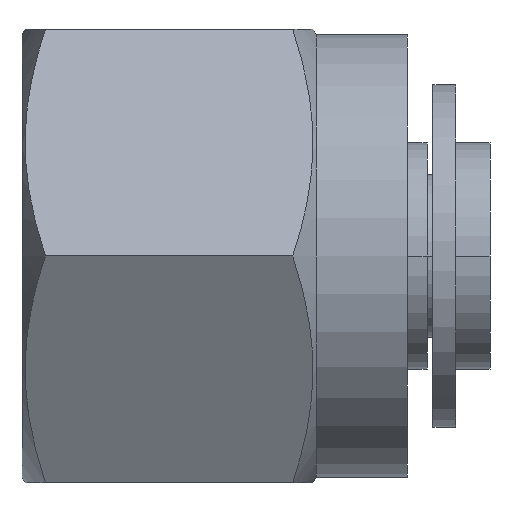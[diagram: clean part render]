
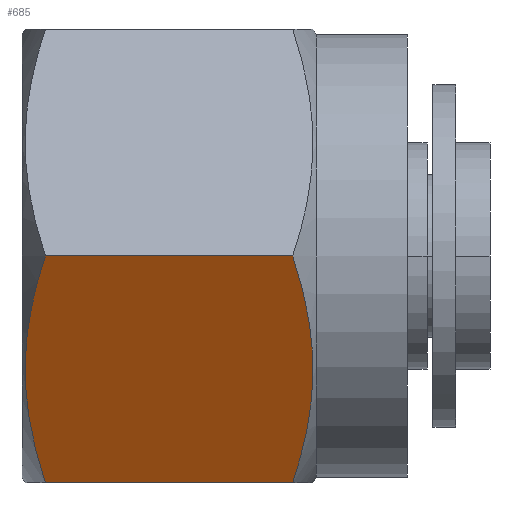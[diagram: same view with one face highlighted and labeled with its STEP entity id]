
A CAD part, front view. The second image highlights one B-rep face of the part: STEP entity #685.
In plain terms, the highlighted planar face has unit normal (0, -0.866, -0.5).
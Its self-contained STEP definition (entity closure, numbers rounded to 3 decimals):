
#301 = VERTEX_POINT ( 'NONE', #1717 ) ;
#304 = VERTEX_POINT ( 'NONE', #1711 ) ;
#314 = EDGE_CURVE ( 'NONE', #304, #301, #1740, .T. ) ;
#353 = EDGE_CURVE ( 'NONE', #356, #355, #1874, .T. ) ;
#355 = VERTEX_POINT ( 'NONE', #1915 ) ;
#356 = VERTEX_POINT ( 'NONE', #1914 ) ;
#631 = EDGE_CURVE ( 'NONE', #355, #304, #2752, .T. ) ;
#632 = ORIENTED_EDGE ( 'NONE', *, *, #353, .F. ) ;
#633 = ORIENTED_EDGE ( 'NONE', *, *, #682, .T. ) ;
#682 = EDGE_CURVE ( 'NONE', #356, #301, #2872, .T. ) ;
#685 = ADVANCED_FACE ( 'NONE', ( #2868 ), #2867, .F. ) ;
#686 = EDGE_LOOP ( 'NONE', ( #687, #688, #632, #633 ) ) ;
#687 = ORIENTED_EDGE ( 'NONE', *, *, #314, .F. ) ;
#688 = ORIENTED_EDGE ( 'NONE', *, *, #631, .F. ) ;
#1199 = CARTESIAN_POINT ( 'NONE',  ( 0.603, -4.958, -7.292 ) ) ;
#1481 = CARTESIAN_POINT ( 'NONE',  ( 0.11, -6.482, -4.653 ) ) ;
#1482 = CARTESIAN_POINT ( 'NONE',  ( 0.178, -6.097, -5.319 ) ) ;
#1487 = CARTESIAN_POINT ( 'NONE',  ( 0.425, -5.335, -6.639 ) ) ;
#1711 = CARTESIAN_POINT ( 'NONE',  ( 0.819, -4.584, -7.94 ) ) ;
#1717 = CARTESIAN_POINT ( 'NONE',  ( 0.819, -9.168, 0. ) ) ;
#1733 = CARTESIAN_POINT ( 'NONE',  ( 0.819, -4.584, -7.94 ) ) ;
#1740 = B_SPLINE_CURVE_WITH_KNOTS ( 'NONE', 3,
 ( #1733, #1199, #1487, #1482, #1481, #1798, #1797, #1796, #1795, #1794, #1793, #1792 ),
 .UNSPECIFIED., .F., .F.,
 ( 4, 2, 2, 2, 2, 4 ),
 ( 0., 0.002, 0.005, 0.006, 0.007, 0.009 ),
 .UNSPECIFIED. ) ;
#1792 = CARTESIAN_POINT ( 'NONE',  ( 0.819, -9.168, 0. ) ) ;
#1793 = CARTESIAN_POINT ( 'NONE',  ( 0.603, -8.794, -0.649 ) ) ;
#1794 = CARTESIAN_POINT ( 'NONE',  ( 0.424, -8.416, -1.303 ) ) ;
#1795 = CARTESIAN_POINT ( 'NONE',  ( 0.239, -7.842, -2.297 ) ) ;
#1796 = CARTESIAN_POINT ( 'NONE',  ( 0.191, -7.65, -2.63 ) ) ;
#1797 = CARTESIAN_POINT ( 'NONE',  ( 0.126, -7.263, -3.301 ) ) ;
#1798 = CARTESIAN_POINT ( 'NONE',  ( 0.109, -7.067, -3.64 ) ) ;
#1874 = B_SPLINE_CURVE_WITH_KNOTS ( 'NONE', 3,
 ( #1927, #1926, #1925, #1924, #1923, #1922, #1921, #1920, #1919, #1918, #1917, #1916 ),
 .UNSPECIFIED., .F., .F.,
 ( 4, 2, 2, 2, 2, 4 ),
 ( 0., 0.002, 0.005, 0.006, 0.007, 0.009 ),
 .UNSPECIFIED. ) ;
#1914 = CARTESIAN_POINT ( 'NONE',  ( 9.481, -9.168, 0. ) ) ;
#1915 = CARTESIAN_POINT ( 'NONE',  ( 9.481, -4.584, -7.94 ) ) ;
#1916 = CARTESIAN_POINT ( 'NONE',  ( 9.481, -4.584, -7.94 ) ) ;
#1917 = CARTESIAN_POINT ( 'NONE',  ( 9.697, -4.959, -7.291 ) ) ;
#1918 = CARTESIAN_POINT ( 'NONE',  ( 9.876, -5.337, -6.637 ) ) ;
#1919 = CARTESIAN_POINT ( 'NONE',  ( 10.061, -5.91, -5.643 ) ) ;
#1920 = CARTESIAN_POINT ( 'NONE',  ( 10.109, -6.103, -5.31 ) ) ;
#1921 = CARTESIAN_POINT ( 'NONE',  ( 10.174, -6.49, -4.639 ) ) ;
#1922 = CARTESIAN_POINT ( 'NONE',  ( 10.191, -6.686, -4.3 ) ) ;
#1923 = CARTESIAN_POINT ( 'NONE',  ( 10.19, -7.27, -3.287 ) ) ;
#1924 = CARTESIAN_POINT ( 'NONE',  ( 10.122, -7.655, -2.621 ) ) ;
#1925 = CARTESIAN_POINT ( 'NONE',  ( 9.875, -8.417, -1.301 ) ) ;
#1926 = CARTESIAN_POINT ( 'NONE',  ( 9.697, -8.794, -0.648 ) ) ;
#1927 = CARTESIAN_POINT ( 'NONE',  ( 9.481, -9.168, 0. ) ) ;
#2749 = DIRECTION ( 'NONE',  ( -1., 0., 0. ) ) ;
#2750 = VECTOR ( 'NONE', #2749, 1000. ) ;
#2751 = CARTESIAN_POINT ( 'NONE',  ( 13.5, -4.584, -7.94 ) ) ;
#2752 = LINE ( 'NONE', #2751, #2750 ) ;
#2863 = DIRECTION ( 'NONE',  ( 0., -0.5, 0.866 ) ) ;
#2864 = DIRECTION ( 'NONE',  ( 0., 0.866, 0.5 ) ) ;
#2865 = AXIS2_PLACEMENT_3D ( 'NONE', #2866, #2864, #2863 ) ;
#2866 = CARTESIAN_POINT ( 'NONE',  ( 13.5, -9.168, 0. ) ) ;
#2867 = PLANE ( 'NONE',  #2865 ) ;
#2868 = FACE_OUTER_BOUND ( 'NONE', #686, .T. ) ;
#2869 = DIRECTION ( 'NONE',  ( -1., 0., 0. ) ) ;
#2870 = VECTOR ( 'NONE', #2869, 1000. ) ;
#2871 = CARTESIAN_POINT ( 'NONE',  ( 13.5, -9.168, 0. ) ) ;
#2872 = LINE ( 'NONE', #2871, #2870 ) ;
